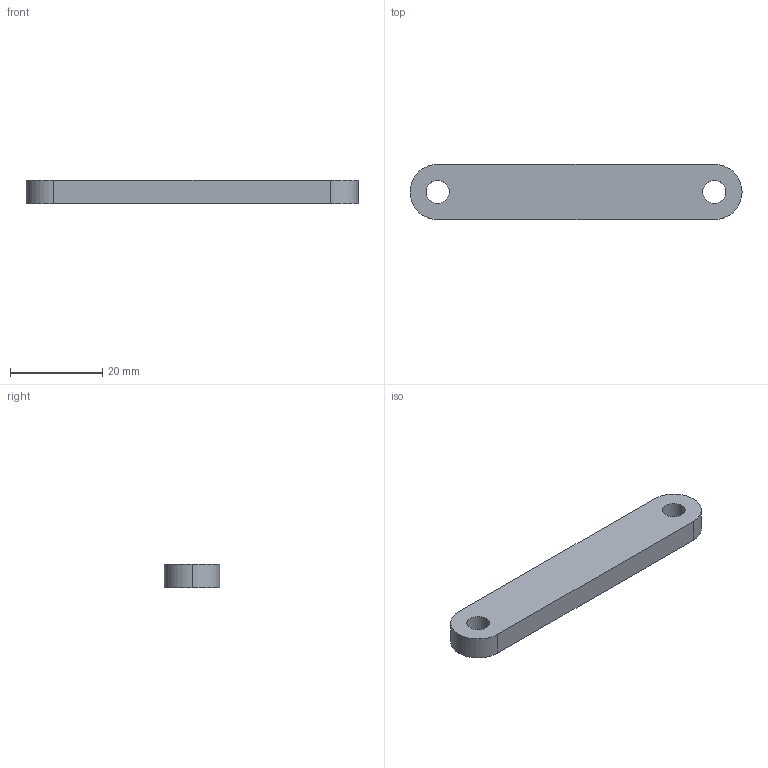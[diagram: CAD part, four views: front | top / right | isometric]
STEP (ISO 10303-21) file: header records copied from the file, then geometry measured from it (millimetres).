
FILE_DESCRIPTION (( 'STEP AP203' ), '1' );
FILE_NAME ('Manivela.STEP', '2025-11-09T20:00:14', ( 'msi i7' ), ( '' ), 'SwSTEP 2.0', 'SolidWorks 2025', '' );
FILE_SCHEMA (( 'CONFIG_CONTROL_DESIGN' ));
Length unit declared in the file: millimetre
Products named in the file (1): Manivela
Bounding box: 72 x 12 x 5 mm (x, y, z)
Volume: 3969.1 mm3; surface area: 2533.2 mm2
Topology: 1 solids, 1 shells, 11 faces, 27 edges, 18 vertices
Faces by surface type: cylinder 7, plane 4
Entity records: 420 total; most frequent: DIRECTION 65, CARTESIAN_POINT 57, ORIENTED_EDGE 54, EDGE_CURVE 27, AXIS2_PLACEMENT_3D 26, VERTEX_POINT 18, EDGE_LOOP 15, CIRCLE 14
